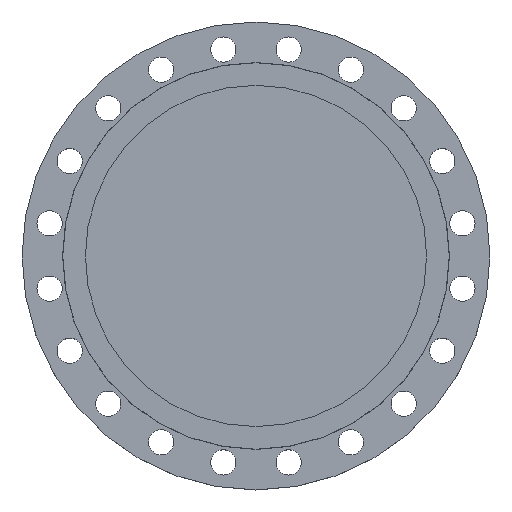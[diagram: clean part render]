
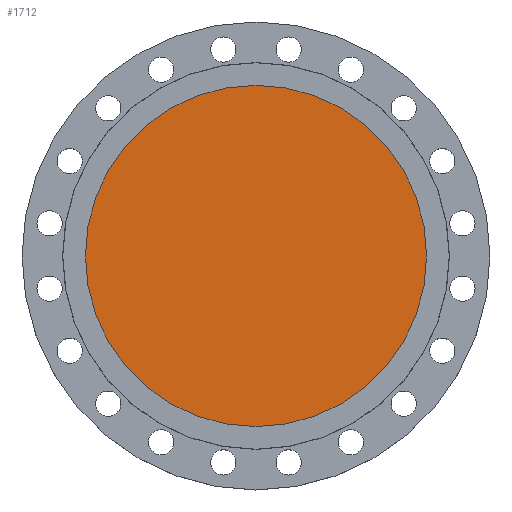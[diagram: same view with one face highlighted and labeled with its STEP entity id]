
A CAD part, top view. The second image highlights one B-rep face of the part: STEP entity #1712.
In plain terms, the highlighted planar face has unit normal (0, 0, 1).
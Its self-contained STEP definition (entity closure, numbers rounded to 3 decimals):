
#92 = DIRECTION ( 'NONE',  ( 1., 0., 0. ) ) ;
#94 = DIRECTION ( 'NONE',  ( 0., 0., 1. ) ) ;
#95 = CARTESIAN_POINT ( 'NONE',  ( 0., 0., -5.5 ) ) ;
#97 = PLANE ( 'NONE',  #1459 ) ;
#98 = FACE_OUTER_BOUND ( 'NONE', #1317, .T. ) ;
#180 = EDGE_CURVE ( 'NONE', #1307, #1455, #778, .T. ) ;
#304 = CARTESIAN_POINT ( 'NONE',  ( -324.5, 0., -5.5 ) ) ;
#467 = CARTESIAN_POINT ( 'NONE',  ( 324.5, 0., -5.5 ) ) ;
#636 = DIRECTION ( 'NONE',  ( -1., 0., 0. ) ) ;
#637 = DIRECTION ( 'NONE',  ( 0., 0., -1. ) ) ;
#639 = CARTESIAN_POINT ( 'NONE',  ( 0., 0., -5.5 ) ) ;
#778 = CIRCLE ( 'NONE', #785, 324.5 ) ;
#785 = AXIS2_PLACEMENT_3D ( 'NONE', #951, #950, #948 ) ;
#933 = EDGE_CURVE ( 'NONE', #1455, #1307, #1368, .T. ) ;
#948 = DIRECTION ( 'NONE',  ( -1., 0., 0. ) ) ;
#950 = DIRECTION ( 'NONE',  ( 0., 0., -1. ) ) ;
#951 = CARTESIAN_POINT ( 'NONE',  ( 0., 0., -5.5 ) ) ;
#1099 = ORIENTED_EDGE ( 'NONE', *, *, #180, .F. ) ;
#1100 = ORIENTED_EDGE ( 'NONE', *, *, #933, .F. ) ;
#1307 = VERTEX_POINT ( 'NONE', #467 ) ;
#1317 = EDGE_LOOP ( 'NONE', ( #1100, #1099 ) ) ;
#1368 = CIRCLE ( 'NONE', #1371, 324.5 ) ;
#1371 = AXIS2_PLACEMENT_3D ( 'NONE', #639, #637, #636 ) ;
#1455 = VERTEX_POINT ( 'NONE', #304 ) ;
#1459 = AXIS2_PLACEMENT_3D ( 'NONE', #95, #94, #92 ) ;
#1712 = ADVANCED_FACE ( 'NONE', ( #98 ), #97, .T. ) ;
